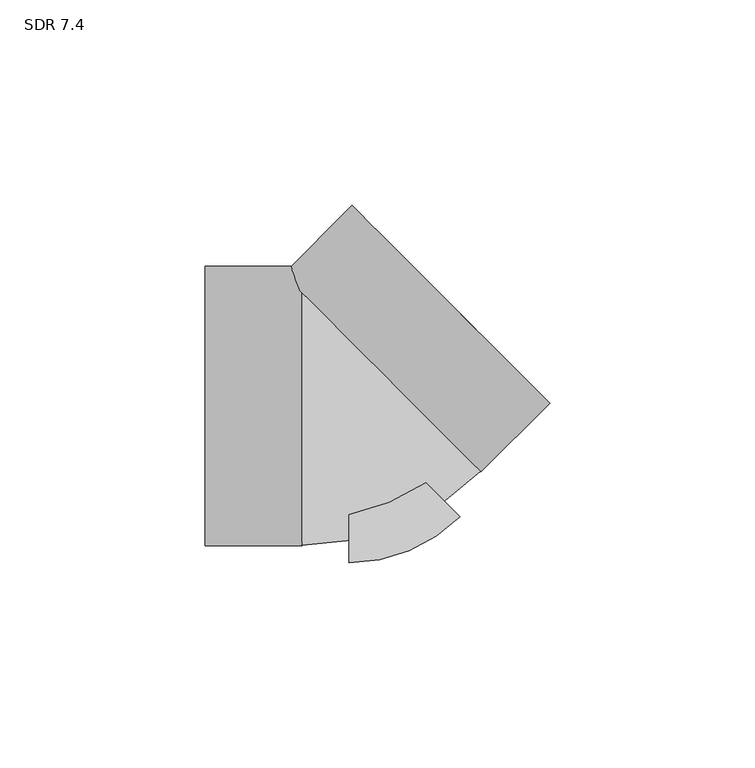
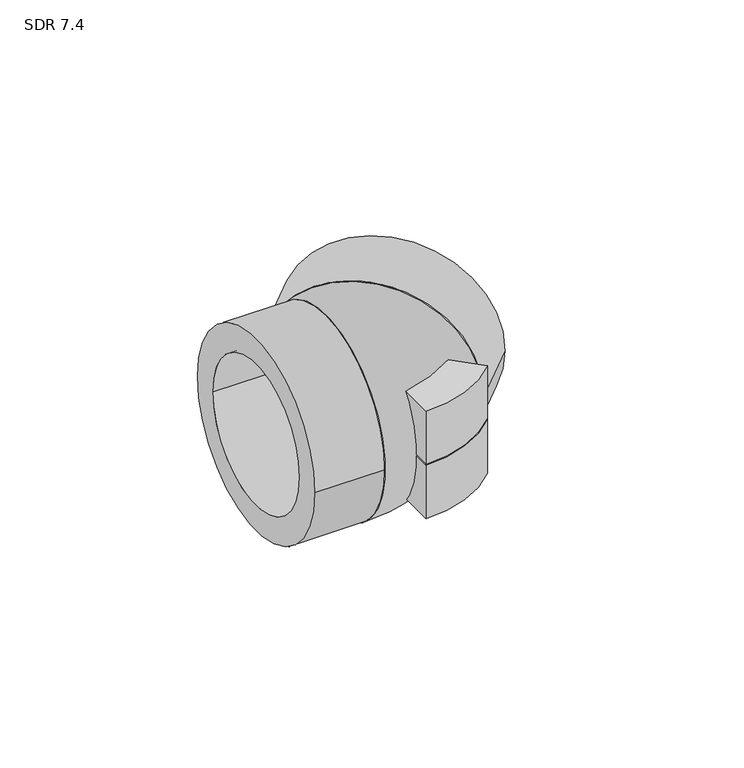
"""IFC4 building model written with IfcOpenShell, lengths in millimetres: pipe fitting geometry, Aquatherm - Elbow Socket : SDR 7.4."""

from ifc_helpers import new_model, si_unit, point, frame, origin, origin_with_axes, origin_2d, place, context, project, spatial, polyline, circle_curve, ellipse_curve, trimmed, segment, composite_curve, outline, extrude, source, transform, mapped, element, save
from ifc_brep_helpers import plane_surface, revolved_surface, advanced_brep


def sdr_7_4_473fdebb(model_context):
    return source(origin(), model_context, "Body", "SolidModel", [
        extrude(outline(composite_curve([segment(polyline([(0.0, -38.1), (0.0, 0.0), (26.9407684, -26.9407684)]), True, "CONTINUOUS"), segment(trimmed(circle_curve(origin_2d(), 38.1), [point((26.9407684, -26.9407684))], [point((0.0, -38.1))], False, "CARTESIAN"), True, "CONTINUOUS")], self_intersect=False)), frame((0.0, 0.0, -19.05), z_axis=(0.0, 0.0, 1.0), x_axis=(1.0, 0.0, 0.0)), (0.0, 0.0, 1.0), 19.05),
        extrude(outline(composite_curve([segment(trimmed(circle_curve(origin_2d(), 38.1), [point((26.9407684, -26.9407684))], [point((0.0, -38.1))], False, "CARTESIAN"), True, "CONTINUOUS"), segment(polyline([(0.0, -38.1), (0.0, 0.0), (26.9407684, -26.9407684)]), True, "CONTINUOUS")], self_intersect=False)), origin_with_axes(), (0.0, 0.0, 1.0), 19.05),
        extrude(outline(composite_curve([segment(trimmed(circle_curve(origin_2d(), 34.036), [point((0.0, 34.036))], [point((0.0, -34.036))], False, "CARTESIAN"), True, "CONTINUOUS"), segment(trimmed(circle_curve(origin_2d(), 34.036), [point((0.0, -34.036))], [point((0.0, 34.036))], False, "CARTESIAN"), True, "CONTINUOUS")], self_intersect=False), holes=[composite_curve([segment(trimmed(circle_curve(origin_2d(), 25.019), [point((0.0, 25.019))], [point((0.0, -25.019))], True, "CARTESIAN"), True, "CONTINUOUS"), segment(trimmed(circle_curve(origin_2d(), 25.019), [point((0.0, -25.019))], [point((0.0, 25.019))], True, "CARTESIAN"), True, "CONTINUOUS")], self_intersect=False)]), frame((8.0822305, 8.0822305, 0.0), z_axis=(0.7071067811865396, 0.7071067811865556, 0.0), x_axis=(0.0, 0.0, 1.0)), (0.0, 0.0, 1.0), 23.622),
        advanced_brep(
        [(-11.43, 27.594461, -19.9247338), (-11.43, 27.594461, 19.9247338), (-11.43, -18.0692778, 0.0), (-11.43, 18.0692778, 0.0), (20.8591394, -4.6946783, 0.0), (-4.6946783, 20.8591394, 0.0)],
        [
            (0, 1, circle_curve(frame((-11.43, 0.0, 0.0), z_axis=(-1.0, 0.0, 0.0), x_axis=(0.0, 1.0, 0.0)), 34.036)),
            (1, 0),
            (2, 3, circle_curve(frame((-11.43, 0.0, 0.0), z_axis=(1.0, 0.0, 0.0), x_axis=(0.0, 1.0, 0.0)), 18.0692778)),
            (3, 2, circle_curve(frame((-11.43, 0.0, 0.0), z_axis=(1.0, 0.0, 0.0), x_axis=(0.0, 1.0, 0.0)), 18.0692778)),
            (1, 0, circle_curve(frame((8.0822305, 8.0822305, 0.0), z_axis=(0.7071067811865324, 0.7071067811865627, 0.0), x_axis=(-0.7071067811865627, 0.7071067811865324, 0.0)), 34.036)),
            (4, 5, circle_curve(frame((8.0822305, 8.0822305, 0.0), z_axis=(-0.7071067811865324, -0.7071067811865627, 0.0), x_axis=(-0.7071067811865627, 0.7071067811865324, 0.0)), 18.0692778)),
            (5, 4, circle_curve(frame((8.0822305, 8.0822305, 0.0), z_axis=(-0.7071067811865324, -0.7071067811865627, 0.0), x_axis=(-0.7071067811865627, 0.7071067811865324, 0.0)), 18.0692778)),
            (5, 3, circle_curve(frame((-11.43, 27.594461, 0.0), z_axis=(0.0, 0.0, -1.0), x_axis=(0.0, -1.0, 0.0)), 9.5251832)),
            (2, 4, circle_curve(frame((-11.43, 27.594461, 0.0), z_axis=(0.0, 0.0, 1.0), x_axis=(0.0, -1.0, 0.0)), 45.6637388)),
        ],
        [
            plane_surface(frame((-11.43, 27.594461, 77.0747338), z_axis=(-1.0, 0.0, 0.0), x_axis=(0.0, -1.0, 0.0))),
            plane_surface(frame((-11.43, 27.594461, 77.0747338), z_axis=(0.7071067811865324, 0.7071067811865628, 0.0), x_axis=(0.7071067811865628, -0.7071067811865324, 0.0))),
            revolved_surface(trimmed(ellipse_curve(frame((-11.43, 0.0, 0.0), z_axis=(1.0, 0.0, 0.0), x_axis=(0.0, 1.0, 0.0)), 34.036, 34.036), [point((-11.43, 27.594461, 19.9247338))], [point((-11.43, 27.594461, -19.9247338))], True, "CARTESIAN"), (-11.43, 27.594461, 77.0747338), (0.0, 0.0, -1.0)),
            revolved_surface(trimmed(ellipse_curve(frame((-11.43, 0.0, 0.0), z_axis=(-1.0, 0.0, 0.0), x_axis=(0.0, 1.0, 0.0)), 18.0692778, 18.0692778), [point((-11.43, 18.0692778, 0.0))], [point((-11.43, -18.0692778, 0.0))], True, "CARTESIAN"), (-11.43, 27.594461, 77.0747338), (0.0, 0.0, -1.0)),
            revolved_surface(trimmed(ellipse_curve(frame((-11.43, 0.0, 0.0), z_axis=(-1.0, 0.0, 0.0), x_axis=(0.0, 1.0, 0.0)), 18.0692778, 18.0692778), [point((-11.43, -18.0692778, 0.0))], [point((-11.43, 18.0692778, 0.0))], True, "CARTESIAN"), (-11.43, 27.594461, 77.0747338), (0.0, 0.0, -1.0)),
        ],
        [
            (0, [[1, 2], [3, 4]]),
            (1, [[5, -2], [6, 7]]),
            (2, [[-1, -5]]),
            (3, [[8, -3, 9, -7]]),
            (4, [[-9, -4, -8, -6]]),
        ],
    ),
        extrude(outline(composite_curve([segment(trimmed(circle_curve(origin_2d(), 34.036), [point((34.036, 0.0))], [point((-34.036, 0.0))], False, "CARTESIAN"), True, "CONTINUOUS"), segment(trimmed(circle_curve(origin_2d(), 34.036), [point((-34.036, 0.0))], [point((34.036, 0.0))], False, "CARTESIAN"), True, "CONTINUOUS")], self_intersect=False), holes=[composite_curve([segment(trimmed(circle_curve(origin_2d(), 25.019), [point((25.019, 0.0))], [point((-25.019, 0.0))], True, "CARTESIAN"), True, "CONTINUOUS"), segment(trimmed(circle_curve(origin_2d(), 25.019), [point((-25.019, 0.0))], [point((25.019, 0.0))], True, "CARTESIAN"), True, "CONTINUOUS")], self_intersect=False)]), frame((-35.052, 0.0, 0.0), z_axis=(1.0, 0.0, 0.0), x_axis=(0.0, 1.0, 0.0)), (0.0, 0.0, 1.0), 23.622),
    ])


if __name__ == "__main__":
    model = new_model("IFC4")
    model_context = context("Model", 3, world=origin())
    ifc_project = project(units=[si_unit("LENGTHUNIT", "METRE", prefix="MILLI")], contexts=[model_context])
    site = spatial("IfcSite", under=ifc_project)
    building = spatial("IfcBuilding", under=site)
    placement = place(None, origin())
    sdr_7_4_shape = sdr_7_4_473fdebb(model_context)
    element("IfcPipeFitting", 1, ObjectType="Aquatherm - Elbow Socket : SDR 7.4", at=placement, inside=building, context=model_context, shape_type="MappedRepresentation", body=[
        mapped(sdr_7_4_shape, transform((0.0, 0.0, 0.0), x_axis=(1.0, 0.0, 0.0), y_axis=(0.0, 1.0, 0.0), z_axis=(0.0, 0.0, 1.0))),
    ])
    save(model, "model.ifc")
